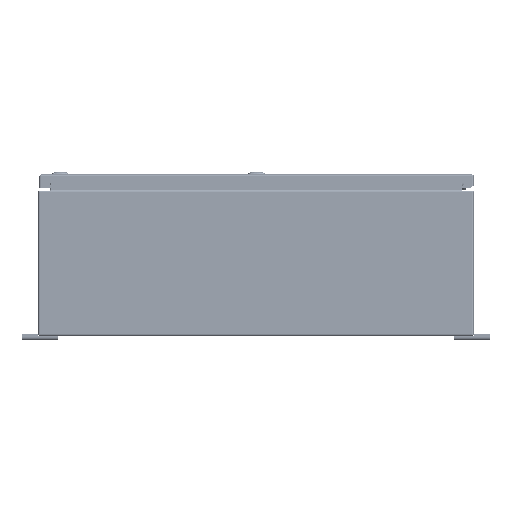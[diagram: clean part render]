
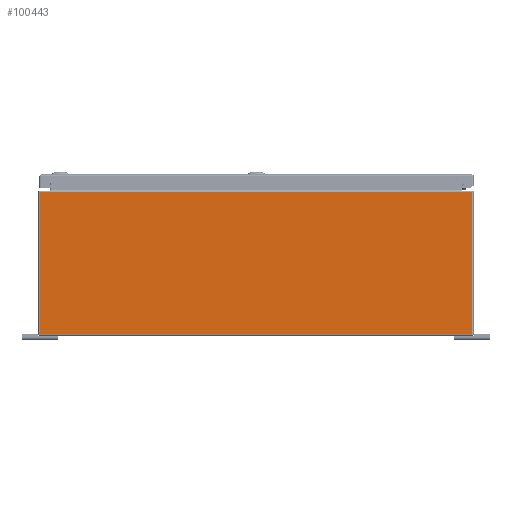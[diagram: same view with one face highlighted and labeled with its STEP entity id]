
A CAD part, left-side view. The second image highlights one B-rep face of the part: STEP entity #100443.
In plain terms, the highlighted planar face has unit normal (-1, 0, 0).
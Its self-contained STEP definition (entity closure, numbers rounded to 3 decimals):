
#5852=PLANE('',#107693);
#8480=LINE('',#143955,#16492);
#8481=LINE('',#143959,#16493);
#8482=LINE('',#143961,#16494);
#8483=LINE('',#143963,#16495);
#8484=LINE('',#143965,#16496);
#8485=LINE('',#143966,#16497);
#16492=VECTOR('',#117233,0.394);
#16493=VECTOR('',#117238,0.394);
#16494=VECTOR('',#117239,0.394);
#16495=VECTOR('',#117240,0.394);
#16496=VECTOR('',#117241,0.394);
#16497=VECTOR('',#117242,0.394);
#26104=FACE_OUTER_BOUND('',#32082,.T.);
#32082=EDGE_LOOP('',(#68420,#68421,#68422,#68423,#68424,#68425));
#42772=VERTEX_POINT('',#143937);
#42779=VERTEX_POINT('',#143954);
#42780=VERTEX_POINT('',#143958);
#42781=VERTEX_POINT('',#143960);
#42782=VERTEX_POINT('',#143962);
#42783=VERTEX_POINT('',#143964);
#52755=EDGE_CURVE('',#42772,#42779,#8480,.T.);
#52757=EDGE_CURVE('',#42780,#42772,#8481,.T.);
#52758=EDGE_CURVE('',#42780,#42781,#8482,.T.);
#52759=EDGE_CURVE('',#42782,#42781,#8483,.T.);
#52760=EDGE_CURVE('',#42783,#42782,#8484,.T.);
#52761=EDGE_CURVE('',#42783,#42779,#8485,.T.);
#68420=ORIENTED_EDGE('',*,*,#52757,.F.);
#68421=ORIENTED_EDGE('',*,*,#52758,.T.);
#68422=ORIENTED_EDGE('',*,*,#52759,.F.);
#68423=ORIENTED_EDGE('',*,*,#52760,.F.);
#68424=ORIENTED_EDGE('',*,*,#52761,.T.);
#68425=ORIENTED_EDGE('',*,*,#52755,.F.);
#100443=ADVANCED_FACE('',(#26104),#5852,.F.);
#107693=AXIS2_PLACEMENT_3D('',#143957,#117236,#117237);
#117233=DIRECTION('',(0.,0.,-1.));
#117236=DIRECTION('center_axis',(1.,0.,0.));
#117237=DIRECTION('ref_axis',(0.,0.,-1.));
#117238=DIRECTION('',(0.,-1.,0.));
#117239=DIRECTION('',(0.,1.,0.));
#117240=DIRECTION('',(0.,-1.,0.));
#117241=DIRECTION('',(0.,0.,1.));
#117242=DIRECTION('',(0.,-1.,0.));
#143937=CARTESIAN_POINT('',(-36.,-14.901,9.901));
#143954=CARTESIAN_POINT('',(-36.,-14.901,0.099));
#143955=CARTESIAN_POINT('',(-36.,-14.901,5.));
#143957=CARTESIAN_POINT('Origin',(-36.,0.,5.));
#143958=CARTESIAN_POINT('',(-36.,-14.126,9.901));
#143959=CARTESIAN_POINT('',(-36.,-7.475,9.901));
#143960=CARTESIAN_POINT('',(-36.,14.126,9.901));
#143961=CARTESIAN_POINT('',(-36.,7.455,9.901));
#143962=CARTESIAN_POINT('',(-36.,14.901,9.901));
#143963=CARTESIAN_POINT('',(-36.,-7.475,9.901));
#143964=CARTESIAN_POINT('',(-36.,14.901,0.099));
#143965=CARTESIAN_POINT('',(-36.,14.901,5.));
#143966=CARTESIAN_POINT('',(-36.,7.5,0.099));
